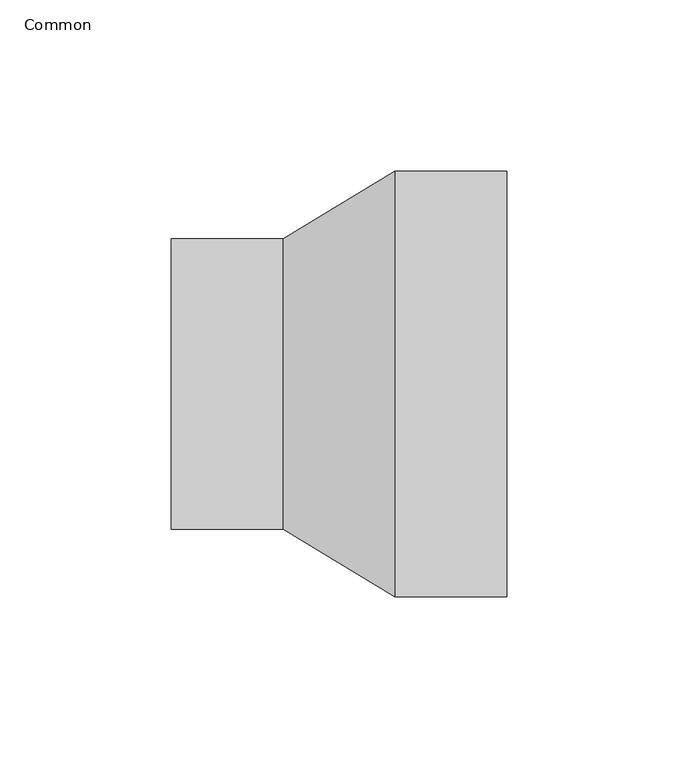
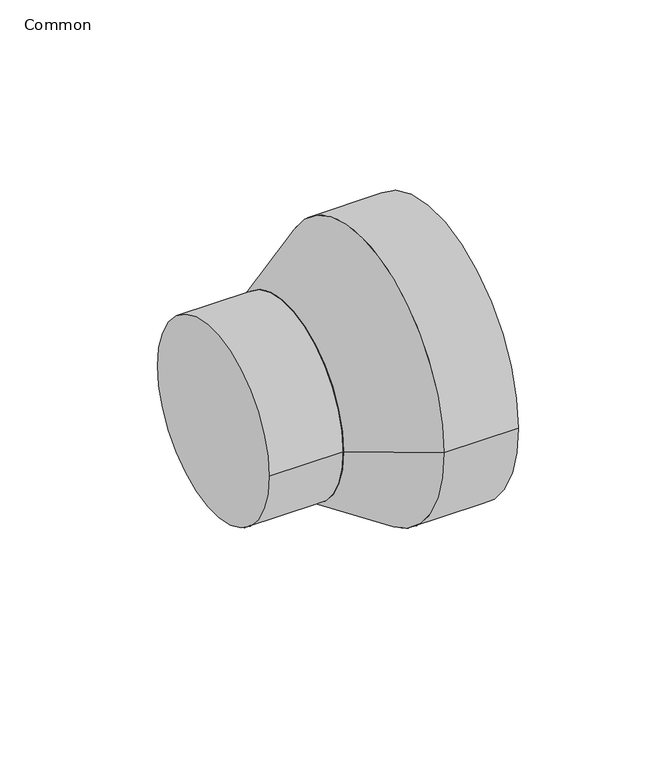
"""IFC4 building model written with IfcOpenShell, lengths in millimetres: pipe fitting geometry, 041_レジューサ : Common."""

import ifcopenshell
import ifcopenshell.guid

model = None  # the IFC model being written
_history = None  # IfcOwnerHistory: only IFC2X3 demands one
_inside = {}  # id of a spatial element -> (the spatial element, [elements in it])
_under = {}  # id of a project, library or spatial element -> (it, [spatial elements below it])
_declared = {}  # id of a project -> (the project, [libraries it declares])
_typed = {}  # id of a type object -> (the type object, [elements of that type])
_made_of = {}  # id of a material, layer set ... -> (it, [elements and type objects made of it])


def new_model(schema):
    """Start an empty IFC model of exactly this schema.

    Asked for "IFC4X3", IfcOpenShell would pick the latest addendum, in which some entities
    have other attributes; the version numbers below select the first issue.
    IFC2X3 requires an IfcOwnerHistory on every rooted entity: one is made here for all.
    """
    global model, _history
    if schema == "IFC4X3":
        model = ifcopenshell.file(schema_version=(4, 3, 0, 0))
    else:
        model = ifcopenshell.file(schema=schema)
    _inside.clear()
    _under.clear()
    _declared.clear()
    _typed.clear()
    _made_of.clear()
    _history = None
    if model.schema == "IFC2X3":
        org = make("IfcOrganization", Name="unknown")
        user = make(
            "IfcPersonAndOrganization",
            ThePerson=make("IfcPerson", FamilyName="unknown"),
            TheOrganization=org,
        )
        app = make(
            "IfcApplication",
            ApplicationDeveloper=org,
            Version="unknown",
            ApplicationFullName="unknown",
            ApplicationIdentifier="unknown",
        )
        _history = make(
            "IfcOwnerHistory",
            OwningUser=user,
            OwningApplication=app,
            ChangeAction="ADDED",
            CreationDate=0,
        )
    return model


def make(cls, **values):
    """One entity of the class cls with the attributes given. An attribute that is None is left unset."""
    return model.create_entity(
        cls, **{name: value for name, value in values.items() if value is not None}
    )


def rooted(cls, **values):
    """An entity with a GlobalId (a new one), such as an element, a storey or a relation."""
    return make(cls, GlobalId=ifcopenshell.guid.new(), OwnerHistory=_history, **values)


def si_unit(unit_type, name, prefix=None):
    """IfcSIUnit, for example si_unit("LENGTHUNIT", "METRE", prefix="MILLI")."""
    return make("IfcSIUnit", UnitType=unit_type, Prefix=prefix, Name=name)


def assignment(units):
    """IfcUnitAssignment: the units of a project."""
    return None if units is None else make("IfcUnitAssignment", Units=units)


def point(xyz):
    """IfcCartesianPoint."""
    return None if xyz is None else make("IfcCartesianPoint", Coordinates=xyz)


def direction(xyz):
    """IfcDirection."""
    return None if xyz is None else make("IfcDirection", DirectionRatios=xyz)


def frame(location, z_axis=None, x_axis=None):
    """IfcAxis2Placement3D, a coordinate frame: its origin and axes. An axis left out is left unset."""
    return make(
        "IfcAxis2Placement3D",
        Location=point(location),
        Axis=direction(z_axis),
        RefDirection=direction(x_axis),
    )


def frame_2d(location, x_axis=None):
    """IfcAxis2Placement2D, a coordinate frame in the plane: its origin and x axis."""
    return make(
        "IfcAxis2Placement2D", Location=point(location), RefDirection=direction(x_axis)
    )


def origin():
    """The frame at (0, 0, 0) with its axes left unset."""
    return frame((0.0, 0.0, 0.0))


def origin_2d():
    """The frame at (0, 0) in the plane with its x axis left unset."""
    return frame_2d((0.0, 0.0))


def place(relative_to, where):
    """IfcLocalPlacement: puts the frame where relative to a parent placement (None: the world)."""
    return make(
        "IfcLocalPlacement", PlacementRelTo=relative_to, RelativePlacement=where
    )


def context(
    kind, dimensions, precision=None, world=None, true_north=None, identifier=None
):
    """IfcGeometricRepresentationContext, for example the 3D "Model" context."""
    return make(
        "IfcGeometricRepresentationContext",
        ContextIdentifier=identifier,
        ContextType=kind,
        CoordinateSpaceDimension=dimensions,
        Precision=precision,
        WorldCoordinateSystem=world,
        TrueNorth=true_north,
    )


def project(units=None, contexts=None):
    """IfcProject with its units and contexts."""
    return rooted(
        "IfcProject",
        Name="project",
        RepresentationContexts=contexts,
        UnitsInContext=assignment(units),
    )


def spatial(cls, under=None, at=None, **own):
    """A site, building, storey or space (cls), placed at a placement, below another one or the project."""
    s = rooted(cls, ObjectPlacement=at, **own)
    if under is not None:
        _under.setdefault(under.id(), (under, []))[1].append(s)
    return s


def polyline(points):
    """IfcPolyline through the points."""
    return make("IfcPolyline", Points=[point(p) for p in points])


def circle_curve(where, radius):
    """IfcCircle in the frame where."""
    return make("IfcCircle", Position=where, Radius=radius)


def trimmed(basis, trim1, trim2, sense, master):
    """IfcTrimmedCurve: the piece of a basis curve between two trims."""
    return make(
        "IfcTrimmedCurve",
        BasisCurve=basis,
        Trim1=trim1,
        Trim2=trim2,
        SenseAgreement=sense,
        MasterRepresentation=master,
    )


def segment(curve, same_sense, transition):
    """IfcCompositeCurveSegment."""
    return make(
        "IfcCompositeCurveSegment",
        Transition=transition,
        SameSense=same_sense,
        ParentCurve=curve,
    )


def composite_curve(segments, self_intersect=None):
    """IfcCompositeCurve: segments joined end to end."""
    return make("IfcCompositeCurve", Segments=segments, SelfIntersect=self_intersect)


def outline(outer, holes=None, kind="AREA"):
    """IfcArbitraryClosedProfileDef: a profile drawn as a closed curve; with holes, ...WithVoids."""
    if holes is None:
        return make("IfcArbitraryClosedProfileDef", ProfileType=kind, OuterCurve=outer)
    return make(
        "IfcArbitraryProfileDefWithVoids",
        ProfileType=kind,
        OuterCurve=outer,
        InnerCurves=holes,
    )


def extrude(swept, where, along, depth):
    """IfcExtrudedAreaSolid: the profile swept, set in the frame where, extruded along a direction by depth."""
    return make(
        "IfcExtrudedAreaSolid",
        SweptArea=swept,
        Position=where,
        ExtrudedDirection=direction(along),
        Depth=depth,
    )


def shape(context_of_items, identifier, shape_type, items):
    """IfcShapeRepresentation: the items that make up one representation, for example the "Body"."""
    return make(
        "IfcShapeRepresentation",
        ContextOfItems=context_of_items,
        RepresentationIdentifier=identifier,
        RepresentationType=shape_type,
        Items=items,
    )


def source(mapping_origin, context_of_items, identifier, shape_type, items):
    """IfcRepresentationMap: a shape defined once, which mapped items show again and again."""
    return make(
        "IfcRepresentationMap",
        MappingOrigin=mapping_origin,
        MappedRepresentation=shape(context_of_items, identifier, shape_type, items),
    )


def transform(
    local_origin,
    x_axis=None,
    y_axis=None,
    z_axis=None,
    scale=None,
    scale2=None,
    scale3=None,
    uniform=True,
):
    """IfcCartesianTransformationOperator3D, or its non-uniform kind. x_axis, y_axis, z_axis: its Axis1, 2, 3."""
    if uniform:
        return make(
            "IfcCartesianTransformationOperator3D",
            Axis1=direction(x_axis),
            Axis2=direction(y_axis),
            LocalOrigin=point(local_origin),
            Scale=scale,
            Axis3=direction(z_axis),
        )
    return make(
        "IfcCartesianTransformationOperator3DnonUniform",
        Axis1=direction(x_axis),
        Axis2=direction(y_axis),
        LocalOrigin=point(local_origin),
        Scale=scale,
        Axis3=direction(z_axis),
        Scale2=scale2,
        Scale3=scale3,
    )


def mapped(mapping_source, mapping_target):
    """IfcMappedItem: shows the shape of a source again, moved by a transform."""
    return make(
        "IfcMappedItem", MappingSource=mapping_source, MappingTarget=mapping_target
    )


def made_of(thing, what):
    """Note that an element or type object is made of a material, layer set ...; save() writes the relation."""
    if what is not None:
        _made_of.setdefault(what.id(), (what, []))[1].append(thing)
    return thing


def element(
    cls,
    number,
    at=None,
    inside=None,
    cuts=None,
    type_object=None,
    material=None,
    context=None,
    identifier="Body",
    shape_type=None,
    held_by="IfcProductDefinitionShape",
    body=None,
    shapes=None,
    **own,
):
    """One element of the class cls, such as IfcWall. Its Tag is "e" and its number.

    at: its placement. inside: the storey or other place that contains it. cuts: it is an
    opening in that element (IfcRelVoidsElement). A single representation is given by context,
    identifier, shape_type and body (its items); several are given by shapes. held_by: the class
    of the entity that holds the representations. save() writes the other relations.
    """
    e = rooted(cls, Tag="e%d" % number, ObjectPlacement=at, **own)
    if body is not None:
        shapes = [shape(context, identifier, shape_type, body)]
    if shapes is not None:
        e.Representation = make(held_by, Representations=shapes)
    if inside is not None:
        _inside.setdefault(inside.id(), (inside, []))[1].append(e)
    if cuts is not None:
        rooted(
            "IfcRelVoidsElement", RelatingBuildingElement=cuts, RelatedOpeningElement=e
        )
    if type_object is not None:
        _typed.setdefault(type_object.id(), (type_object, []))[1].append(e)
    return made_of(e, material)


def aggregate(whole, parts):
    """IfcRelAggregates: a whole, such as a stair, and the parts it consists of."""
    return rooted("IfcRelAggregates", RelatingObject=whole, RelatedObjects=parts)


def save(model, path):
    """Write the relations noted so far, then the file.

    IfcRelAggregates (storeys below a building ...), IfcRelContainedInSpatialStructure (elements
    in a storey), IfcRelDefinesByType, IfcRelAssociatesMaterial and IfcRelDeclares: one each for
    every whole, place, type object, material and project.
    """
    for whole, parts in _under.values():
        aggregate(whole, parts)
    for where, things in _inside.values():
        rooted(
            "IfcRelContainedInSpatialStructure",
            RelatedElements=things,
            RelatingStructure=where,
        )
    for kind, things in _typed.values():
        rooted("IfcRelDefinesByType", RelatedObjects=things, RelatingType=kind)
    for what, things in _made_of.values():
        rooted("IfcRelAssociatesMaterial", RelatedObjects=things, RelatingMaterial=what)
    for by, libraries in _declared.values():
        rooted("IfcRelDeclares", RelatingContext=by, RelatedDefinitions=libraries)
    model.write(path)


def plane_surface(at):
    """IfcPlane: the flat surface through the origin of the frame at, square to its z axis."""
    return make("IfcPlane", Position=at)


def revolved_surface(curve, axis_point, axis_direction):
    """IfcSurfaceOfRevolution: the curve turned about the line through axis_point along axis_direction."""
    return make(
        "IfcSurfaceOfRevolution",
        SweptCurve=make("IfcArbitraryOpenProfileDef", ProfileType="CURVE", Curve=curve),
        AxisPosition=make("IfcAxis1Placement", Location=point(axis_point), Axis=direction(axis_direction)),
    )


def advanced_brep(points, edges, surfaces, faces):
    """IfcAdvancedBrep: a solid bounded by faces that lie on surfaces and meet in shared edges.

    An edge is (start, end): straight between two places in points (the first is 0);
    or (start, end, curve); or (start, end, curve, False) where it runs against its curve.
    A face is (place in surfaces, loops), or (place, loops, False) where it looks against
    its surface's normal. A loop lists edges by number (the first is 1), with a minus sign
    where the edge is run from its end to its start. The first loop is the outer one.
    """
    corners = [point(p) for p in points]
    vertices = [make("IfcVertexPoint", VertexGeometry=c) for c in corners]
    made = []
    for start, end, *more in edges:
        made.append(
            make(
                "IfcEdgeCurve",
                EdgeStart=vertices[start],
                EdgeEnd=vertices[end],
                EdgeGeometry=more[0] if more else make("IfcPolyline", Points=[corners[start], corners[end]]),
                SameSense=more[1] if len(more) > 1 else True,
            )
        )
    hull = []
    for where, loops, *sense in faces:
        bounds = []
        for j, loop in enumerate(loops):
            ring = [make("IfcOrientedEdge", EdgeElement=made[abs(k) - 1], Orientation=k > 0) for k in loop]
            bounds.append(
                make(
                    "IfcFaceOuterBound" if j == 0 else "IfcFaceBound",
                    Bound=make("IfcEdgeLoop", EdgeList=ring),
                    Orientation=True,
                )
            )
        hull.append(make("IfcAdvancedFace", Bounds=bounds, FaceSurface=surfaces[where], SameSense=sense[0] if sense else True))
    return make("IfcAdvancedBrep", Outer=make("IfcClosedShell", CfsFaces=hull))


def common_a570e3cd(model_context):
    return source(origin(), model_context, "Body", "SolidModel", [
        advanced_brep(
        [(65.3333333, -62.15, 0.0), (65.3333333, 62.15, 0.0), (32.6666667, -42.375, 0.0), (32.6666667, 42.375, 0.0)],
        [
            (0, 1, circle_curve(frame((65.3333333, 0.0, 0.0), z_axis=(1.0, 0.0, 0.0), x_axis=(0.0, -1.0, 0.0)), 62.15)),
            (1, 0, circle_curve(frame((65.3333333, 0.0, 0.0), z_axis=(1.0, 0.0, 0.0), x_axis=(0.0, 1.0, 0.0)), 62.15)),
            (2, 3, circle_curve(frame((32.6666667, 0.0, 0.0), z_axis=(-1.0, 0.0, 0.0), x_axis=(0.0, 1.0, 0.0)), 42.375)),
            (3, 2, circle_curve(frame((32.6666667, 0.0, 0.0), z_axis=(-1.0, 0.0, 0.0), x_axis=(0.0, -1.0, 0.0)), 42.375)),
            (3, 1),
            (0, 2),
        ],
        [
            plane_surface(frame((65.3333333, 0.0, 0.0), z_axis=(1.0, 0.0, 0.0), x_axis=(0.0, 0.0, -1.0))),
            plane_surface(frame((32.6666667, 0.0, 0.0), z_axis=(-1.0, 0.0, 0.0), x_axis=(0.0, 0.0, -1.0))),
            revolved_surface(polyline([(32.6666667, 42.37500002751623, 0.0), (65.33333330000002, 62.15, 0.0)]), (-37.3333333, 0.0, 0.0), (1.0, 0.0, 0.0)),
            revolved_surface(polyline([(32.6666667, -42.37500002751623, 0.0), (65.33333330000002, -62.15, 0.0)]), (-37.3333333, 0.0, 0.0), (1.0, 0.0, 0.0)),
        ],
        [
            (0, [[1, 2]]),
            (1, [[3, 4]]),
            (2, [[-4, 5, -1, 6]]),
            (3, [[-3, -6, -2, -5]]),
        ],
    ),
        extrude(outline(composite_curve([segment(trimmed(circle_curve(origin_2d(), 62.15), [point((-62.15, 0.0))], [point((62.15, 0.0))], False, "CARTESIAN"), True, "CONTINUOUS"), segment(trimmed(circle_curve(origin_2d(), 62.15), [point((62.15, 0.0))], [point((-62.15, 0.0))], False, "CARTESIAN"), True, "CONTINUOUS")], self_intersect=False)), frame((65.3333333, 0.0, 0.0), z_axis=(1.0, 0.0, 0.0), x_axis=(0.0, 1.0, 0.0)), (0.0, 0.0, 1.0), 32.6666667),
        extrude(outline(composite_curve([segment(trimmed(circle_curve(origin_2d(), 42.375), [point((-42.375, 0.0))], [point((42.375, 0.0))], False, "CARTESIAN"), True, "CONTINUOUS"), segment(trimmed(circle_curve(origin_2d(), 42.375), [point((42.375, 0.0))], [point((-42.375, 0.0))], False, "CARTESIAN"), True, "CONTINUOUS")], self_intersect=False)), frame((0.0, 0.0, 0.0), z_axis=(1.0, 0.0, 0.0), x_axis=(0.0, 1.0, 0.0)), (0.0, 0.0, 1.0), 32.6666667),
    ])


if __name__ == "__main__":
    model = new_model("IFC4")
    model_context = context("Model", 3, world=origin())
    ifc_project = project(units=[si_unit("LENGTHUNIT", "METRE", prefix="MILLI")], contexts=[model_context])
    site = spatial("IfcSite", under=ifc_project)
    building = spatial("IfcBuilding", under=site)
    placement = place(None, origin())
    common_shape = common_a570e3cd(model_context)
    element("IfcPipeFitting", 1, ObjectType="041_レジューサ : Common", at=placement, inside=building, context=model_context, shape_type="MappedRepresentation", body=[
        mapped(common_shape, transform((0.0, 0.0, 0.0), x_axis=(1.0, 0.0, 0.0), y_axis=(0.0, 1.0, 0.0), z_axis=(0.0, 0.0, 1.0))),
    ])
    save(model, "model.ifc")
